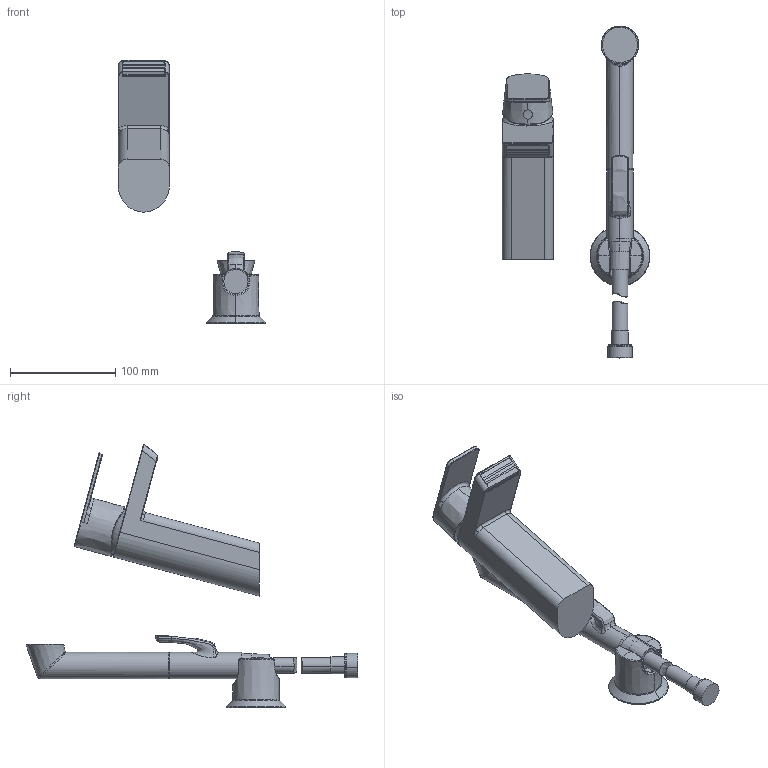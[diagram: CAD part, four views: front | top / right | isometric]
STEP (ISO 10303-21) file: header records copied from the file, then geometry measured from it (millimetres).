
FILE_DESCRIPTION (( 'STEP AP203' ), '1' );
FILE_NAME ('4812F(2021).STEP', '2020-10-22T10:53:12', ( '' ), ( '' ), 'SwSTEP 2.0', 'SolidWorks 2016', '' );
FILE_SCHEMA (( 'CONFIG_CONTROL_DESIGN' ));
Length unit declared in the file: millimetre
Products named in the file (1): 4812F(2021)
Bounding box: 140.07 x 314.75 x 249.48 mm (x, y, z)
Volume: 609556.5 mm3; surface area: 93932 mm2
Topology: 9 solids, 9 shells, 290 faces, 723 edges, 454 vertices
Faces by surface type: bspline 122, plane 67, cylinder 56, torus 24, cone 14, sphere 7
Entity records: 31582 total; most frequent: CARTESIAN_POINT 25573, ORIENTED_EDGE 1438, DIRECTION 939, EDGE_CURVE 719, VERTEX_POINT 453, AXIS2_PLACEMENT_3D 364, EDGE_LOOP 296, ADVANCED_FACE 290
